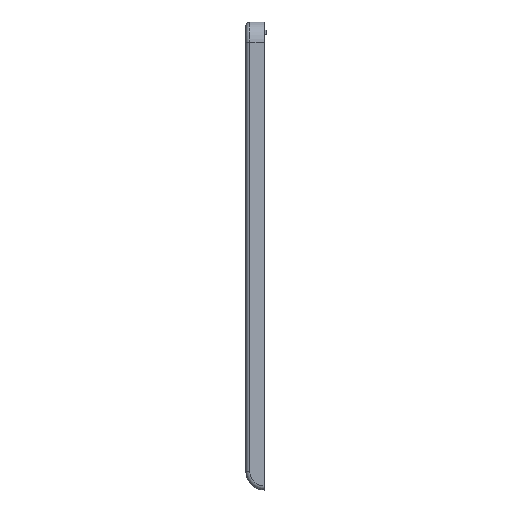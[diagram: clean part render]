
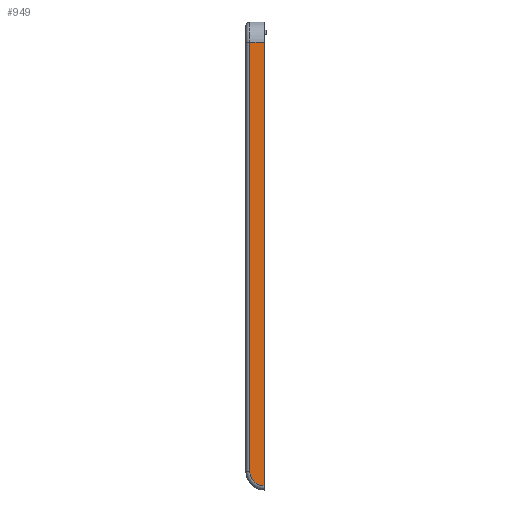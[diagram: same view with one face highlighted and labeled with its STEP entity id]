
A CAD part, left-side view. The second image highlights one B-rep face of the part: STEP entity #949.
In plain terms, the highlighted planar face has unit normal (-1, 0, 0).
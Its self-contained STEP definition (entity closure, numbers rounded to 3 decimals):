
#162 = VERTEX_POINT ( 'NONE', #2110 ) ;
#294 = DIRECTION ( 'NONE',  ( 0., 0., 1. ) ) ;
#361 = DIRECTION ( 'NONE',  ( 0., 0., -1. ) ) ;
#395 = CARTESIAN_POINT ( 'NONE',  ( 0., 4.5, -5. ) ) ;
#420 = CARTESIAN_POINT ( 'NONE',  ( 0., 0., -113.9 ) ) ;
#496 = FACE_OUTER_BOUND ( 'NONE', #4222, .T. ) ;
#949 = ADVANCED_FACE ( 'NONE', ( #496 ), #4180, .F. ) ;
#1348 = ORIENTED_EDGE ( 'NONE', *, *, #3487, .F. ) ;
#1826 = CARTESIAN_POINT ( 'NONE',  ( 0., 3.5, -5. ) ) ;
#1897 = VECTOR ( 'NONE', #294, 1000. ) ;
#2110 = CARTESIAN_POINT ( 'NONE',  ( 0., 0., -5. ) ) ;
#2242 = EDGE_CURVE ( 'NONE', #4759, #4638, #3855, .T. ) ;
#2568 = CARTESIAN_POINT ( 'NONE',  ( 0., 0., -110.4 ) ) ;
#2621 = DIRECTION ( 'NONE',  ( 0., 0., -1. ) ) ;
#2639 = ORIENTED_EDGE ( 'NONE', *, *, #2242, .T. ) ;
#2728 = ORIENTED_EDGE ( 'NONE', *, *, #4070, .T. ) ;
#2733 = CARTESIAN_POINT ( 'NONE',  ( 0., 0., -5. ) ) ;
#2818 = ORIENTED_EDGE ( 'NONE', *, *, #3537, .T. ) ;
#3244 = VECTOR ( 'NONE', #7476, 1000. ) ;
#3487 = EDGE_CURVE ( 'NONE', #4759, #162, #5194, .T. ) ;
#3493 = DIRECTION ( 'NONE',  ( 1., 0., 0. ) ) ;
#3537 = EDGE_CURVE ( 'NONE', #5231, #162, #4000, .T. ) ;
#3855 = LINE ( 'NONE', #7988, #3244 ) ;
#4000 = LINE ( 'NONE', #2733, #1897 ) ;
#4070 = EDGE_CURVE ( 'NONE', #4638, #5231, #4872, .T. ) ;
#4180 = PLANE ( 'NONE',  #5576 ) ;
#4206 = AXIS2_PLACEMENT_3D ( 'NONE', #2568, #6435, #2621 ) ;
#4222 = EDGE_LOOP ( 'NONE', ( #2639, #2728, #2818, #1348 ) ) ;
#4562 = CARTESIAN_POINT ( 'NONE',  ( 0., 3.5, -110.4 ) ) ;
#4638 = VERTEX_POINT ( 'NONE', #4562 ) ;
#4759 = VERTEX_POINT ( 'NONE', #1826 ) ;
#4872 = CIRCLE ( 'NONE', #4206, 3.5 ) ;
#5170 = DIRECTION ( 'NONE',  ( 0., -1., 0. ) ) ;
#5194 = LINE ( 'NONE', #7173, #7086 ) ;
#5231 = VERTEX_POINT ( 'NONE', #420 ) ;
#5576 = AXIS2_PLACEMENT_3D ( 'NONE', #395, #3493, #361 ) ;
#6435 = DIRECTION ( 'NONE',  ( -1., 0., 0. ) ) ;
#7086 = VECTOR ( 'NONE', #5170, 1000. ) ;
#7173 = CARTESIAN_POINT ( 'NONE',  ( 0., 4.5, -5. ) ) ;
#7476 = DIRECTION ( 'NONE',  ( 0., 0., -1. ) ) ;
#7988 = CARTESIAN_POINT ( 'NONE',  ( 0., 3.5, -110.4 ) ) ;
